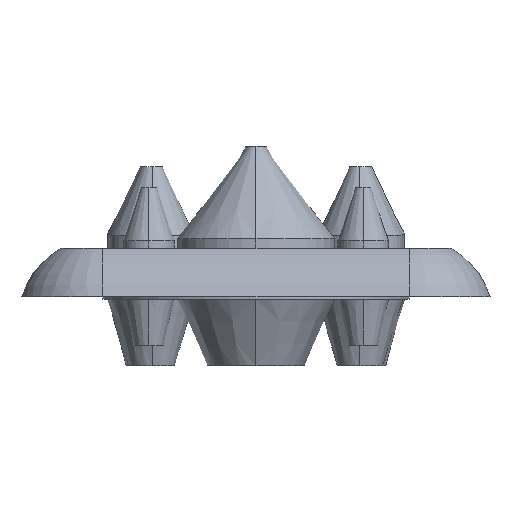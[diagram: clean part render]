
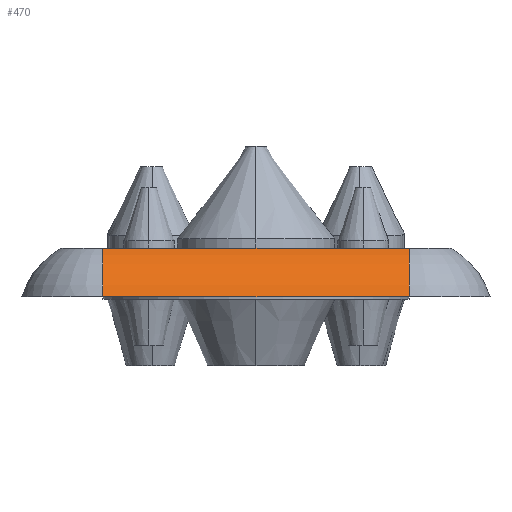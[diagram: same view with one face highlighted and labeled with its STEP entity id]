
A CAD part, left-side view. The second image highlights one B-rep face of the part: STEP entity #470.
In plain terms, the highlighted cylindrical face has radius 16.3 mm (diameter 32.6 mm), a partial arc.
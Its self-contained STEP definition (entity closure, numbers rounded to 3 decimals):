
#416 = AXIS2_PLACEMENT_3D ( 'NONE', #701, #699, #697 ) ;
#470 = ADVANCED_FACE ( 'NONE', ( #4695 ), #4703, .T. ) ;
#697 = DIRECTION ( 'NONE',  ( -1., 0., 0. ) ) ;
#699 = DIRECTION ( 'NONE',  ( 0., 1., 0. ) ) ;
#701 = CARTESIAN_POINT ( 'NONE',  ( 15.431, 15.7, -14.2 ) ) ;
#1361 = ORIENTED_EDGE ( 'NONE', *, *, #9385, .T. ) ;
#1362 = ORIENTED_EDGE ( 'NONE', *, *, #6257, .F. ) ;
#1363 = ORIENTED_EDGE ( 'NONE', *, *, #6307, .F. ) ;
#1364 = ORIENTED_EDGE ( 'NONE', *, *, #6272, .T. ) ;
#1507 = EDGE_LOOP ( 'NONE', ( #1361, #1362, #1363, #1364 ) ) ;
#3070 = CARTESIAN_POINT ( 'NONE',  ( 7.428, 75.7, 0. ) ) ;
#3083 = CARTESIAN_POINT ( 'NONE',  ( -0.176, 75.7, -9.5 ) ) ;
#3088 = CARTESIAN_POINT ( 'NONE',  ( -0.176, 15.7, -9.5 ) ) ;
#3223 = CARTESIAN_POINT ( 'NONE',  ( 7.428, 15.7, 0. ) ) ;
#3795 = CARTESIAN_POINT ( 'NONE',  ( 15.431, 75.7, -14.2 ) ) ;
#3796 = DIRECTION ( 'NONE',  ( 0., 1., 0. ) ) ;
#3797 = DIRECTION ( 'NONE',  ( 0., 0., 1. ) ) ;
#3838 = CARTESIAN_POINT ( 'NONE',  ( 15.431, 15.7, -14.2 ) ) ;
#3839 = DIRECTION ( 'NONE',  ( 0., 1., 0. ) ) ;
#3840 = DIRECTION ( 'NONE',  ( 0., 0., 1. ) ) ;
#4024 = VERTEX_POINT ( 'NONE', #3070 ) ;
#4034 = VERTEX_POINT ( 'NONE', #3083 ) ;
#4039 = VERTEX_POINT ( 'NONE', #3088 ) ;
#4228 = VERTEX_POINT ( 'NONE', #3223 ) ;
#4695 = FACE_OUTER_BOUND ( 'NONE', #1507, .T. ) ;
#4703 = CYLINDRICAL_SURFACE ( 'NONE', #416, 16.3 ) ;
#5188 = DIRECTION ( 'NONE',  ( 0., 1., 0. ) ) ;
#5192 = CARTESIAN_POINT ( 'NONE',  ( -0.176, 15.7, -9.5 ) ) ;
#6257 = EDGE_CURVE ( 'NONE', #4034, #4024, #8083, .T. ) ;
#6272 = EDGE_CURVE ( 'NONE', #4039, #4228, #8094, .T. ) ;
#6307 = EDGE_CURVE ( 'NONE', #4039, #4034, #8130, .T. ) ;
#6522 = DIRECTION ( 'NONE',  ( 0., 1., 0. ) ) ;
#6526 = CARTESIAN_POINT ( 'NONE',  ( 7.428, 15.7, 0. ) ) ;
#7343 = AXIS2_PLACEMENT_3D ( 'NONE', #3795, #3796, #3797 ) ;
#7356 = AXIS2_PLACEMENT_3D ( 'NONE', #3838, #3839, #3840 ) ;
#8083 = CIRCLE ( 'NONE', #7343, 16.3 ) ;
#8094 = CIRCLE ( 'NONE', #7356, 16.3 ) ;
#8130 = LINE ( 'NONE', #5192, #8139 ) ;
#8139 = VECTOR ( 'NONE', #5188, 1000. ) ;
#9029 = LINE ( 'NONE', #6526, #9036 ) ;
#9036 = VECTOR ( 'NONE', #6522, 1000. ) ;
#9385 = EDGE_CURVE ( 'NONE', #4228, #4024, #9029, .T. ) ;
